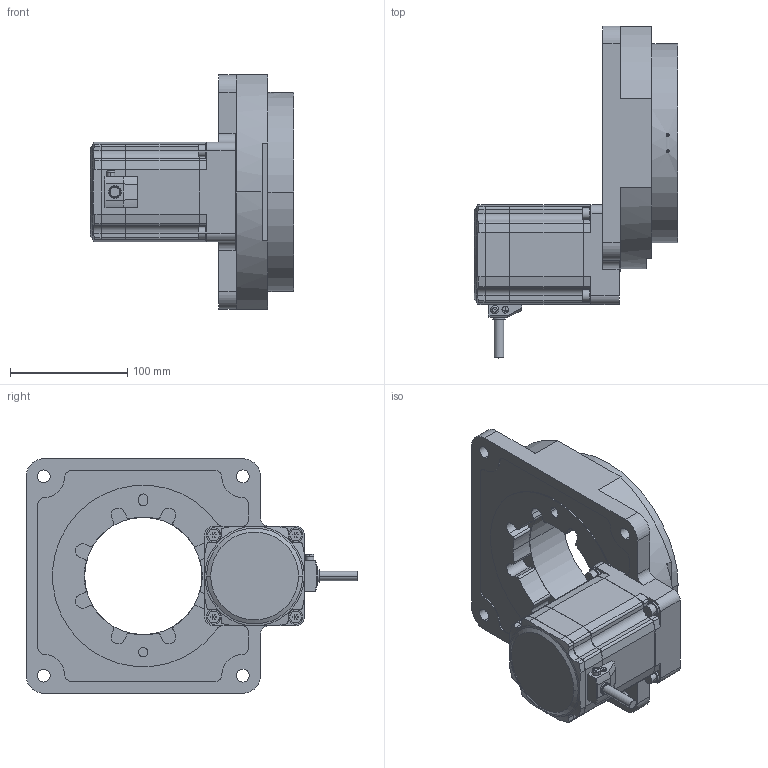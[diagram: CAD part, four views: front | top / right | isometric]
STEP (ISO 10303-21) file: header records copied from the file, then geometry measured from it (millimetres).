
FILE_DESCRIPTION( ( '' ), '1' );
FILE_NAME( 'Z:/14ＣＡＤ/01_CAD業務フォルダ/12_STEP書き出し/05_STEPファイル名の変更作業/02_ファイル名変換の作業場/■手動で書き出し_DG2/DG200R-ARAA-1(1)→D2857-A.stp', '2013-01-08T01:00:56', ( '' ), ( '' ), ' ', ' ', ' ' );
FILE_SCHEMA( ( 'CONFIG_CONTROL_DESIGN' ) );
Length unit declared in the file: millimetre
Products named in the file (2): 1; 2
Bounding box: 173.5 x 283.15 x 200 mm (x, y, z)
Volume: 2223586.6 mm3; surface area: 217591.6 mm2
Topology: 2 solids, 2 shells, 619 faces, 1701 edges, 1107 vertices
Faces by surface type: plane 334, cylinder 229, cone 46, torus 10
Entity records: 19954 total; most frequent: CARTESIAN_POINT 3861, ORIENTED_EDGE 3362, DIRECTION 3354, EDGE_CURVE 1681, LINE 1122, VECTOR 1122, AXIS2_PLACEMENT_3D 1116, VERTEX_POINT 1107
